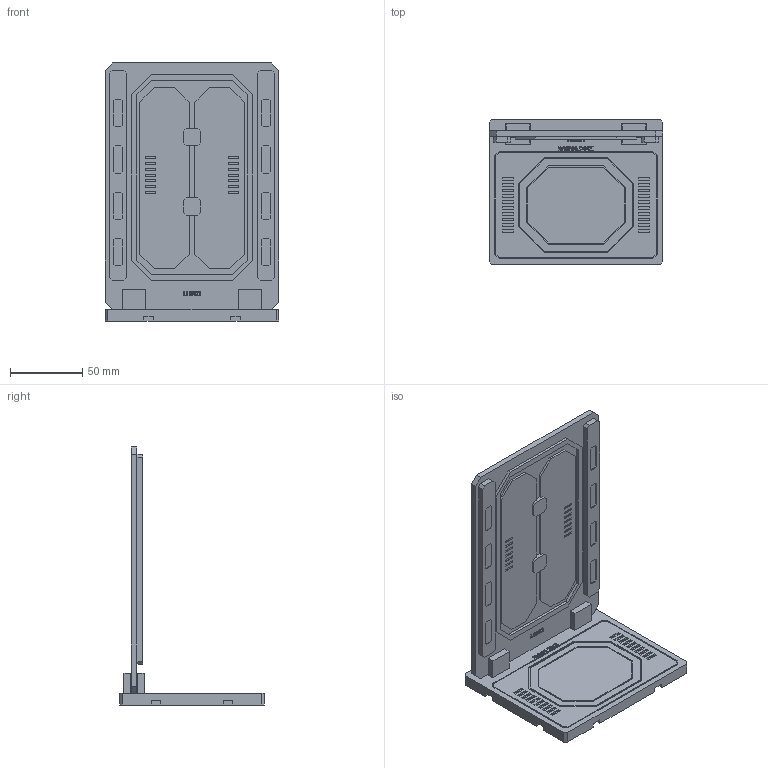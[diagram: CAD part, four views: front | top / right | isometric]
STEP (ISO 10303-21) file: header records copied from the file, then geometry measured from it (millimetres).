
FILE_DESCRIPTION(('Open CASCADE Model'),'2;1');
FILE_NAME('Open CASCADE Shape Model','2026-10-02T13:48:47',('Author'),( 'Open CASCADE'),'Open CASCADE STEP processor 7.8','Open CASCADE 7.8' ,'Unknown');
FILE_SCHEMA(('AUTOMOTIVE_DESIGN { 1 0 10303 214 1 1 1 1 }'));
Length unit declared in the file: millimetre
Products named in the file (5): Open CASCADE STEP translator 7.8 1; Open CASCADE STEP translator 7.8 1.1; Open CASCADE STEP translator 7.8 1.2; Open CASCADE STEP translator 7.8 1.3; Open CASCADE STEP translator 7.8 1.4
Assembly tree (4 placements, depth 2):
  Open CASCADE STEP translator 7.8 1
    Open CASCADE STEP translator 7.8 1.1
    Open CASCADE STEP translator 7.8 1.2
    Open CASCADE STEP translator 7.8 1.3
    Open CASCADE STEP translator 7.8 1.4
Bounding box: 120 x 100 x 178 mm (x, y, z)
Volume: 206993.3 mm3; surface area: 82335.8 mm2
Topology: 4 solids, 4 shells, 788 faces, 2076 edges, 1384 vertices
Faces by surface type: plane 648, extrusion 140
Entity records: 50712 total; most frequent: CARTESIAN_POINT 10237, DIRECTION 6682, VECTOR 5376, LINE 5236, ORIENTED_EDGE 4152, PCURVE 4152, DEFINITIONAL_REPRESENTATION 4152, EDGE_CURVE 2076
